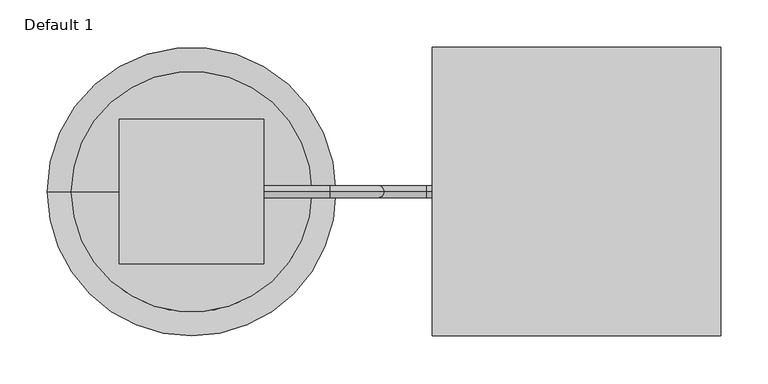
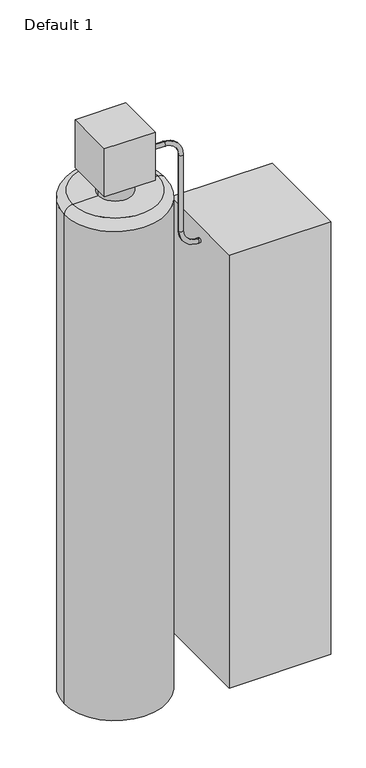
"""IFC4 building model written with IfcOpenShell, lengths in millimetres: proxy geometry, Water Softener : Default 1."""

from ifc_helpers import new_model, si_unit, point, frame, origin, origin_with_axes, origin_2d, place, context, project, spatial, polyline, circle_curve, ellipse_curve, trimmed, segment, composite_curve, outline, extrude, source, transform, mapped, element, save
from ifc_brep_helpers import plane_surface, cylinder_surface, revolved_surface, advanced_brep


def default_1_1a27af5c(model_context):
    return source(origin(), model_context, "Body", "SolidModel", [
        extrude(outline(composite_curve([segment(trimmed(circle_curve(origin_2d(), 50.8), [point((-50.8, 0.0))], [point((50.8, 0.0))], False, "CARTESIAN"), True, "CONTINUOUS"), segment(trimmed(circle_curve(origin_2d(), 50.8), [point((50.8, 0.0))], [point((-50.8, 0.0))], False, "CARTESIAN"), True, "CONTINUOUS")], self_intersect=False)), frame((0.0, 0.0, 1574.8), z_axis=(0.0, 0.0, 1.0), x_axis=(1.0, 0.0, 0.0)), (0.0, 0.0, 1.0), 50.8),
        advanced_brep(
        [(-152.4, 0.0, 0.0), (152.4, 0.0, 0.0), (152.4, 0.0, 1549.4), (-152.4, 0.0, 1549.4), (127.0, 0.0, 1574.8), (-127.0, 0.0, 1574.8), (0.0, 0.0, 1574.8)],
        [
            (0, 1, circle_curve(frame((0.0, 0.0, 0.0), z_axis=(0.0, 0.0, -1.0), x_axis=(1.0, 0.0, 0.0)), 152.4)),
            (1, 0, circle_curve(frame((0.0, 0.0, 0.0), z_axis=(0.0, 0.0, -1.0), x_axis=(1.0, 0.0, 0.0)), 152.4)),
            (1, 2),
            (2, 3, circle_curve(frame((0.0, 0.0, 1549.4), z_axis=(0.0, 0.0, -1.0), x_axis=(1.0, 0.0, 0.0)), 152.4)),
            (3, 0),
            (3, 2, circle_curve(frame((0.0, 0.0, 1549.4), z_axis=(0.0, 0.0, -1.0), x_axis=(1.0, 0.0, 0.0)), 152.4)),
            (4, 5, circle_curve(frame((0.0, 0.0, 1574.8), z_axis=(0.0, 0.0, 1.0), x_axis=(-1.0, 0.0, 0.0)), 127.0)),
            (5, 6),
            (6, 4),
            (5, 4, circle_curve(frame((0.0, 0.0, 1574.8), z_axis=(0.0, 0.0, 1.0), x_axis=(-1.0, 0.0, 0.0)), 127.0)),
            (4, 2, circle_curve(frame((127.0, 0.0, 1549.4), z_axis=(0.0, 1.0, 0.0), x_axis=(-1.0, 0.0, 0.0)), 25.4)),
            (3, 5, circle_curve(frame((-127.0, 0.0, 1549.4), z_axis=(0.0, 1.0, 0.0), x_axis=(1.0, 0.0, 0.0)), 25.4)),
        ],
        [
            plane_surface(frame((152.4, 0.0, 0.0), z_axis=(0.0, 0.0, -1.0), x_axis=(0.0, -1.0, 0.0))),
            cylinder_surface(origin_with_axes(), 152.4),
            plane_surface(frame((0.0, 0.0, 1574.8), z_axis=(0.0, 0.0, 1.0), x_axis=(-1.0, 0.0, 0.0))),
            revolved_surface(trimmed(ellipse_curve(frame((-127.0, 0.0, 1549.4), z_axis=(0.0, -1.0, 0.0), x_axis=(1.0, 0.0, 0.0)), 25.4, 25.4), [point((-127.0, 0.0, 1574.8))], [point((-152.4, 0.0, 1549.4))], True, "CARTESIAN"), (0.0, 0.0, 1574.8), (0.0, 0.0, -1.0)),
        ],
        [
            (0, [[1, 2]]),
            (1, [[-2, 3, 4, 5]]),
            (1, [[-1, -5, 6, -3]]),
            (2, [[7, 8, 9]]),
            (2, [[-8, 10, -9]]),
            (3, [[-7, 11, -6, 12]]),
            (3, [[-10, -12, -4, -11]]),
        ],
    ),
        extrude(outline(polyline([(558.8, 152.4), (558.8, -152.4), (254.0, -152.4), (254.0, 152.4), (558.8, 152.4)])), origin_with_axes(), (0.0, 0.0, 1.0), 1371.6),
        advanced_brep(
        [(76.2, 0.0, 1663.7), (76.2, 0.0, 1676.4), (146.05, 0.0, 1663.7), (146.05, 0.0, 1676.4), (203.2, 0.0, 1619.25), (190.5, 0.0, 1619.25), (190.5, 0.0, 1377.95), (203.2, 0.0, 1377.95), (247.65, 0.0, 1333.5), (247.65, 0.0, 1320.8), (254.0, 0.0, 1320.8), (254.0, 0.0, 1333.5)],
        [
            (0, 1, circle_curve(frame((76.2, 0.0, 1670.05), z_axis=(-1.0, 0.0, 0.0), x_axis=(0.0, 0.0, 1.0)), 6.35)),
            (1, 0, circle_curve(frame((76.2, 0.0, 1670.05), z_axis=(-1.0, 0.0, 0.0), x_axis=(0.0, 0.0, 1.0)), 6.35)),
            (0, 2),
            (2, 3, circle_curve(frame((146.05, 0.0, 1670.05), z_axis=(-1.0, 0.0, 0.0), x_axis=(0.0, 0.0, 1.0)), 6.35)),
            (3, 1),
            (3, 2, circle_curve(frame((146.05, 0.0, 1670.05), z_axis=(-1.0, 0.0, 0.0), x_axis=(0.0, 0.0, 1.0)), 6.35)),
            (4, 3, circle_curve(frame((146.05, 0.0, 1619.25), z_axis=(0.0, -1.0, 0.0), x_axis=(0.0, 0.0, 1.0)), 57.15)),
            (2, 5, circle_curve(frame((146.05, 0.0, 1619.25), z_axis=(0.0, 1.0, 0.0), x_axis=(0.0, 0.0, 1.0)), 44.45)),
            (5, 4, circle_curve(frame((196.85, 0.0, 1619.25), z_axis=(0.0, 0.0, 1.0), x_axis=(1.0, 0.0, 0.0)), 6.35)),
            (4, 5, circle_curve(frame((196.85, 0.0, 1619.25), z_axis=(0.0, 0.0, 1.0), x_axis=(1.0, 0.0, 0.0)), 6.35)),
            (5, 6),
            (6, 7, circle_curve(frame((196.85, 0.0, 1377.95), z_axis=(0.0, 0.0, 1.0), x_axis=(1.0, 0.0, 0.0)), 6.35)),
            (7, 4),
            (7, 6, circle_curve(frame((196.85, 0.0, 1377.95), z_axis=(0.0, 0.0, 1.0), x_axis=(1.0, 0.0, 0.0)), 6.35)),
            (8, 7, circle_curve(frame((247.65, 0.0, 1377.95), z_axis=(0.0, 1.0, 0.0), x_axis=(-1.0, 0.0, 0.0)), 44.45)),
            (6, 9, circle_curve(frame((247.65, 0.0, 1377.95), z_axis=(0.0, -1.0, 0.0), x_axis=(-1.0, 0.0, 0.0)), 57.15)),
            (9, 8, circle_curve(frame((247.65, 0.0, 1327.15), z_axis=(-1.0, 0.0, 0.0), x_axis=(0.0, 0.0, 1.0)), 6.35)),
            (8, 9, circle_curve(frame((247.65, 0.0, 1327.15), z_axis=(-1.0, 0.0, 0.0), x_axis=(0.0, 0.0, 1.0)), 6.35)),
            (10, 11, circle_curve(frame((254.0, 0.0, 1327.15), z_axis=(1.0, 0.0, 0.0), x_axis=(0.0, 0.0, 1.0)), 6.35)),
            (11, 10, circle_curve(frame((254.0, 0.0, 1327.15), z_axis=(1.0, 0.0, 0.0), x_axis=(0.0, 0.0, 1.0)), 6.35)),
            (9, 10),
            (11, 8),
        ],
        [
            plane_surface(frame((76.2, 0.0, 1670.05), z_axis=(-1.0, 0.0, 0.0), x_axis=(0.0, -1.0, 0.0))),
            cylinder_surface(frame((76.2, 0.0, 1670.05), z_axis=(-1.0, 0.0, 0.0), x_axis=(0.0, 0.0, 1.0)), 6.35),
            revolved_surface(trimmed(ellipse_curve(frame((146.05, 0.0, 1670.05), z_axis=(-1.0, 0.0, 0.0), x_axis=(0.0, 0.0, 1.0)), 6.35, 6.35), [point((146.05, 0.0, 1663.7))], [point((146.05, 0.0, 1676.4))], True, "CARTESIAN"), (146.05, 0.0, 1619.25), (0.0, 1.0, 0.0)),
            revolved_surface(trimmed(ellipse_curve(frame((146.05, 0.0, 1670.05), z_axis=(-1.0, 0.0, 0.0), x_axis=(0.0, 0.0, 1.0)), 6.35, 6.35), [point((146.05, 0.0, 1676.4))], [point((146.05, 0.0, 1663.7))], True, "CARTESIAN"), (146.05, 0.0, 1619.25), (0.0, 1.0, 0.0)),
            cylinder_surface(frame((196.85, 0.0, 1619.25), z_axis=(0.0, 0.0, 1.0), x_axis=(1.0, 0.0, 0.0)), 6.35),
            revolved_surface(trimmed(ellipse_curve(frame((196.85, 0.0, 1377.95), z_axis=(0.0, 0.0, 1.0), x_axis=(1.0, 0.0, 0.0)), 6.35, 6.35), [point((190.5, 0.0, 1377.95))], [point((203.2, 0.0, 1377.95))], True, "CARTESIAN"), (247.65, 0.0, 1377.95), (0.0, -1.0, 0.0)),
            revolved_surface(trimmed(ellipse_curve(frame((196.85, 0.0, 1377.95), z_axis=(0.0, 0.0, 1.0), x_axis=(1.0, 0.0, 0.0)), 6.35, 6.35), [point((203.2, 0.0, 1377.95))], [point((190.5, 0.0, 1377.95))], True, "CARTESIAN"), (247.65, 0.0, 1377.95), (0.0, -1.0, 0.0)),
            plane_surface(frame((254.0, 0.0, 1327.15), z_axis=(1.0, 0.0, 0.0), x_axis=(0.0, -1.0, 0.0))),
            cylinder_surface(frame((247.65, 0.0, 1327.15), z_axis=(-1.0, 0.0, 0.0), x_axis=(0.0, 0.0, 1.0)), 6.35),
        ],
        [
            (0, [[1, 2]]),
            (1, [[-1, 3, 4, 5]]),
            (1, [[-2, -5, 6, -3]]),
            (2, [[7, -4, 8, 9]]),
            (3, [[-8, -6, -7, 10]]),
            (4, [[-9, 11, 12, 13]]),
            (4, [[-10, -13, 14, -11]]),
            (5, [[15, -12, 16, 17]]),
            (6, [[-16, -14, -15, 18]]),
            (7, [[19, 20]]),
            (8, [[-17, 21, -20, 22]]),
            (8, [[-18, -22, -19, -21]]),
        ],
    ),
        extrude(outline(polyline([(76.2, 76.2), (76.2, -76.2), (-76.2, -76.2), (-76.2, 76.2), (76.2, 76.2)])), frame((0.0, 0.0, 1625.6), z_axis=(0.0, 0.0, 1.0), x_axis=(1.0, 0.0, 0.0)), (0.0, 0.0, 1.0), 152.4),
    ])


if __name__ == "__main__":
    model = new_model("IFC4")
    model_context = context("Model", 3, world=origin())
    ifc_project = project(units=[si_unit("LENGTHUNIT", "METRE", prefix="MILLI")], contexts=[model_context])
    site = spatial("IfcSite", under=ifc_project)
    building = spatial("IfcBuilding", under=site)
    placement = place(None, origin())
    default_1_shape = default_1_1a27af5c(model_context)
    element("IfcBuildingElementProxy", 1, Name="Water Softener : Default 1", ObjectType="Water Softener : Default 1", at=placement, inside=building, context=model_context, shape_type="MappedRepresentation", body=[
        mapped(default_1_shape, transform((0.0, 0.0, 0.0), x_axis=(1.0, 0.0, 0.0), y_axis=(0.0, 1.0, 0.0), z_axis=(0.0, 0.0, 1.0))),
    ])
    save(model, "model.ifc")
